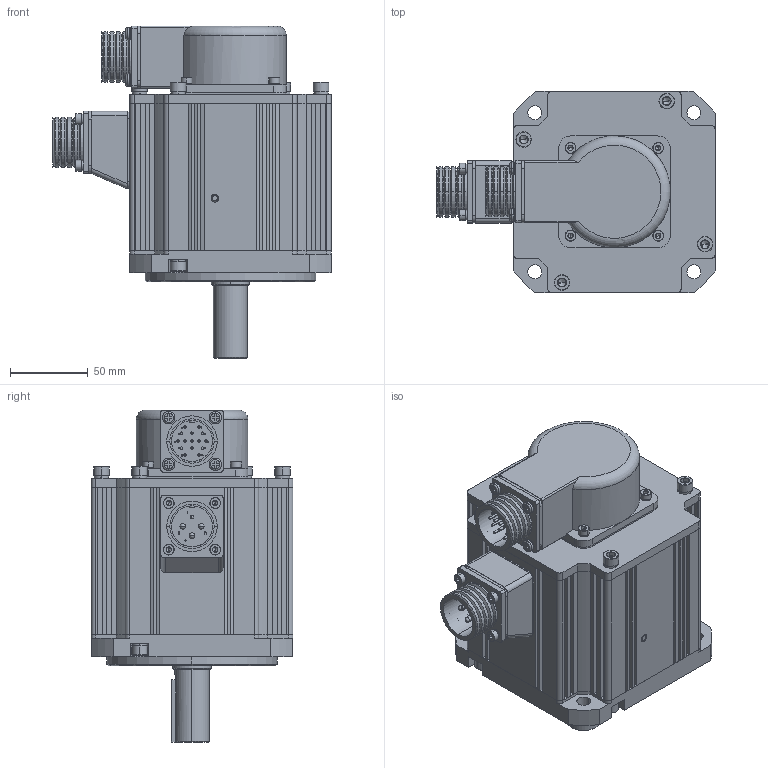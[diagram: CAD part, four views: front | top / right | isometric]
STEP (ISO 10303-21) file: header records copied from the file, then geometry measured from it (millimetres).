
FILE_DESCRIPTION((''),'2;1');
FILE_NAME('SV-MM13-1R5E-X-XA0-1000_ASM_ASM','2019-12-11T',('JWDQ'),(''),'CREO PARAMETRIC BY PTC INC, 2014050','CREO PARAMETRIC BY PTC INC, 2014050','');
FILE_SCHEMA(('CONFIG_CONTROL_DESIGN'));
Products named in the file (30): SV130PT-JK_1_1; 046770000100_1_1_2_3_4_5_6_7_11; 80750004_1_1_2_3_4_5_6_7_8_9_12; 78400020_1_1_2_3_4_5_6_7_8_9_12; GBT93-4_1_1_2_3_4_5_6_7_8_9; GBT7R1-4X35_1_1_2_3_4_5_6_7__10; 513704090100_1_1_2_3_4_5_6_7_12; S-YD28-4_ASM_1_1_2_3_4_5_6_7_10_ASM; SV130PT-DZ_ASM_1_1_ASM; SV130PT-ZHOU_1_1_AF0; SV130PT-HG_1_1_2_3_4; SV130DGL-HG_ASM_1_1_2_3_4_ASM; SV130PT-ZHUANZ_ASM_1_1_AF0_ASM; 80100007_1_1_2_3_4_5_6_7_8_9_12; 730030000200_1_1_2_3_4_5_6_7_12; SV130-QG_ASM_1_1_2_3_4_5_6_7_10_ASM; GBT1095-6X6-41_1_1_2_3_4; 82340004_1_1_2_3_4_5_6_7_8_9_12; 046770000100_1; 513715090100_1_1_2_3_4_5_6_7_12; 78400019_1_1_2_3_4_5_6_7_8_9_12; GBT93-4_1; GBT70R1-4X12_1_1_2_3_4_5_6_7_10; M4X16_1_1_2_3_4_5_6_7_8_9_10_12; TS5214_ASM_1_1_2_3_4_5_6_7_8_9_ASM; GBT93-6_1_1_2_3_4_5_6_7_8_9_10; GBT7R1-M6X16_1_1_2_3_4_5_6_7_10; GBT119R1-5X8_1_1_2_3_4; SV130PT_ASM_2_AF0_ASM; SV-MM13-1R5E-X-XA0-1000_ASM_ASM
Assembly tree (61 placements, depth 5):
  SV-MM13-1R5E-X-XA0-1000_ASM_ASM
    SV130PT_ASM_2_AF0_ASM
      SV130PT-DZ_ASM_1_1_ASM
        SV130PT-JK_1_1
        S-YD28-4_ASM_1_1_2_3_4_5_6_7_10_ASM
          046770000100_1_1_2_3_4_5_6_7_11
          80750004_1_1_2_3_4_5_6_7_8_9_12
          78400020_1_1_2_3_4_5_6_7_8_9_12
          GBT93-4_1_1_2_3_4_5_6_7_8_9  x4
          GBT7R1-4X35_1_1_2_3_4_5_6_7__10  x4
          513704090100_1_1_2_3_4_5_6_7_12
      SV130PT-ZHUANZ_ASM_1_1_AF0_ASM
        SV130PT-ZHOU_1_1_AF0
        SV130DGL-HG_ASM_1_1_2_3_4_ASM
          SV130PT-HG_1_1_2_3_4
      SV130-QG_ASM_1_1_2_3_4_5_6_7_10_ASM
        80100007_1_1_2_3_4_5_6_7_8_9_12
        730030000200_1_1_2_3_4_5_6_7_12
      GBT1095-6X6-41_1_1_2_3_4
      TS5214_ASM_1_1_2_3_4_5_6_7_8_9_ASM
        82340004_1_1_2_3_4_5_6_7_8_9_12
        046770000100_1
        513715090100_1_1_2_3_4_5_6_7_12
        78400019_1_1_2_3_4_5_6_7_8_9_12
        GBT93-4_1  x8
        GBT70R1-4X12_1_1_2_3_4_5_6_7_10  x4
        M4X16_1_1_2_3_4_5_6_7_8_9_10_12  x4
      GBT93-6_1_1_2_3_4_5_6_7_8_9_10  x7
      GBT7R1-M6X16_1_1_2_3_4_5_6_7_10  x8
      GBT119R1-5X8_1_1_2_3_4
Bounding box: 179.5 x 130 x 214 mm (x, y, z)
Volume: 817567.6 mm3; surface area: 341371 mm2
Topology: 54 solids, 71 shells, 3165 faces, 8262 edges, 5355 vertices
Faces by surface type: plane 1880, cylinder 765, cone 365, torus 102, bspline 27, sphere 26
Entity records: 99480 total; most frequent: CARTESIAN_POINT 16305, DIRECTION 13906, ORIENTED_EDGE 13660, EDGE_CURVE 6838, VECTOR 4716, LINE 4716, AXIS2_PLACEMENT_3D 4595, VERTEX_POINT 4535
